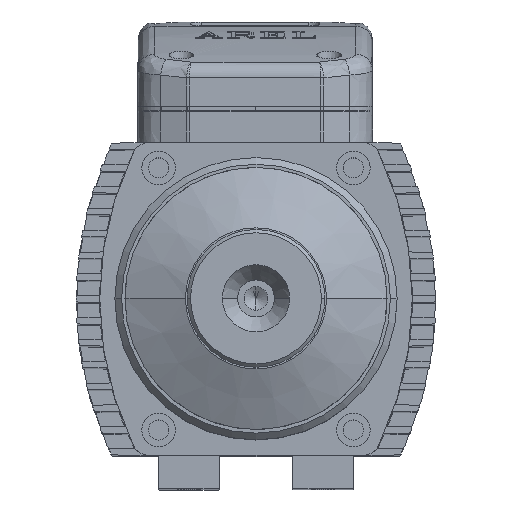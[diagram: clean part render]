
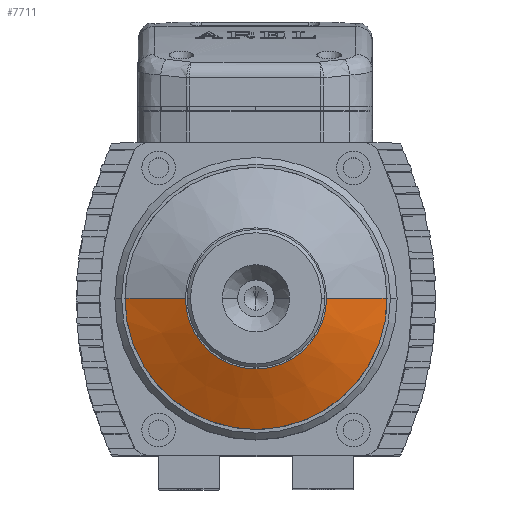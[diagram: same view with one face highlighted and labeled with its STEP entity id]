
A CAD part, top view. The second image highlights one B-rep face of the part: STEP entity #7711.
In plain terms, the highlighted conical face has half-angle 66.038 degrees and reference radius 39 mm.
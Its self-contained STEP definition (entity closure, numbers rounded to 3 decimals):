
#3393 = DIRECTION ( 'NONE',  ( -1., 0., 0. ) ) ;
#4741 = AXIS2_PLACEMENT_3D ( 'NONE', #40583, #27961, #21624 ) ;
#7711 = ADVANCED_FACE ( 'NONE', ( #50125 ), #30892, .T. ) ;
#9775 = DIRECTION ( 'NONE',  ( 0., 0., -1. ) ) ;
#10568 = CIRCLE ( 'NONE', #4741, 39. ) ;
#15290 = CARTESIAN_POINT ( 'NONE',  ( -39., 0., -8. ) ) ;
#15904 = EDGE_CURVE ( 'NONE', #21351, #27714, #42699, .T. ) ;
#15973 = AXIS2_PLACEMENT_3D ( 'NONE', #48525, #42214, #35917 ) ;
#16114 = CARTESIAN_POINT ( 'NONE',  ( 0., 0., -8. ) ) ;
#18010 = EDGE_CURVE ( 'NONE', #27714, #38921, #29551, .T. ) ;
#18799 = EDGE_CURVE ( 'NONE', #57683, #38921, #10568, .T. ) ;
#21351 = VERTEX_POINT ( 'NONE', #27840 ) ;
#21624 = DIRECTION ( 'NONE',  ( 1., 0., 0. ) ) ;
#23013 = EDGE_LOOP ( 'NONE', ( #46855, #42346, #26023, #26299 ) ) ;
#24364 = EDGE_CURVE ( 'NONE', #21351, #57683, #41646, .T. ) ;
#26023 = ORIENTED_EDGE ( 'NONE', *, *, #24364, .T. ) ;
#26299 = ORIENTED_EDGE ( 'NONE', *, *, #18799, .T. ) ;
#27714 = VERTEX_POINT ( 'NONE', #48138 ) ;
#27840 = CARTESIAN_POINT ( 'NONE',  ( -21., 0., 0. ) ) ;
#27961 = DIRECTION ( 'NONE',  ( 0., 0., 1. ) ) ;
#29000 = DIRECTION ( 'NONE',  ( -0.914, 0., -0.406 ) ) ;
#29551 = LINE ( 'NONE', #59694, #41397 ) ;
#30892 = CONICAL_SURFACE ( 'NONE', #53303, 39., 1.153 ) ;
#35335 = CARTESIAN_POINT ( 'NONE',  ( -39., 0., -8. ) ) ;
#35917 = DIRECTION ( 'NONE',  ( 1., 0., 0. ) ) ;
#38921 = VERTEX_POINT ( 'NONE', #57291 ) ;
#40583 = CARTESIAN_POINT ( 'NONE',  ( 0., 0., -8. ) ) ;
#41397 = VECTOR ( 'NONE', #53355, 1000. ) ;
#41646 = LINE ( 'NONE', #35335, #43606 ) ;
#42214 = DIRECTION ( 'NONE',  ( 0., 0., 1. ) ) ;
#42346 = ORIENTED_EDGE ( 'NONE', *, *, #15904, .F. ) ;
#42699 = CIRCLE ( 'NONE', #15973, 21. ) ;
#43606 = VECTOR ( 'NONE', #29000, 1000. ) ;
#46855 = ORIENTED_EDGE ( 'NONE', *, *, #18010, .F. ) ;
#48138 = CARTESIAN_POINT ( 'NONE',  ( 21., 0., 0. ) ) ;
#48525 = CARTESIAN_POINT ( 'NONE',  ( 0., 0., 0. ) ) ;
#50125 = FACE_OUTER_BOUND ( 'NONE', #23013, .T. ) ;
#53303 = AXIS2_PLACEMENT_3D ( 'NONE', #16114, #9775, #3393 ) ;
#53355 = DIRECTION ( 'NONE',  ( 0.914, 0., -0.406 ) ) ;
#57291 = CARTESIAN_POINT ( 'NONE',  ( 39., 0., -8. ) ) ;
#57683 = VERTEX_POINT ( 'NONE', #15290 ) ;
#59694 = CARTESIAN_POINT ( 'NONE',  ( 39., 0., -8. ) ) ;
